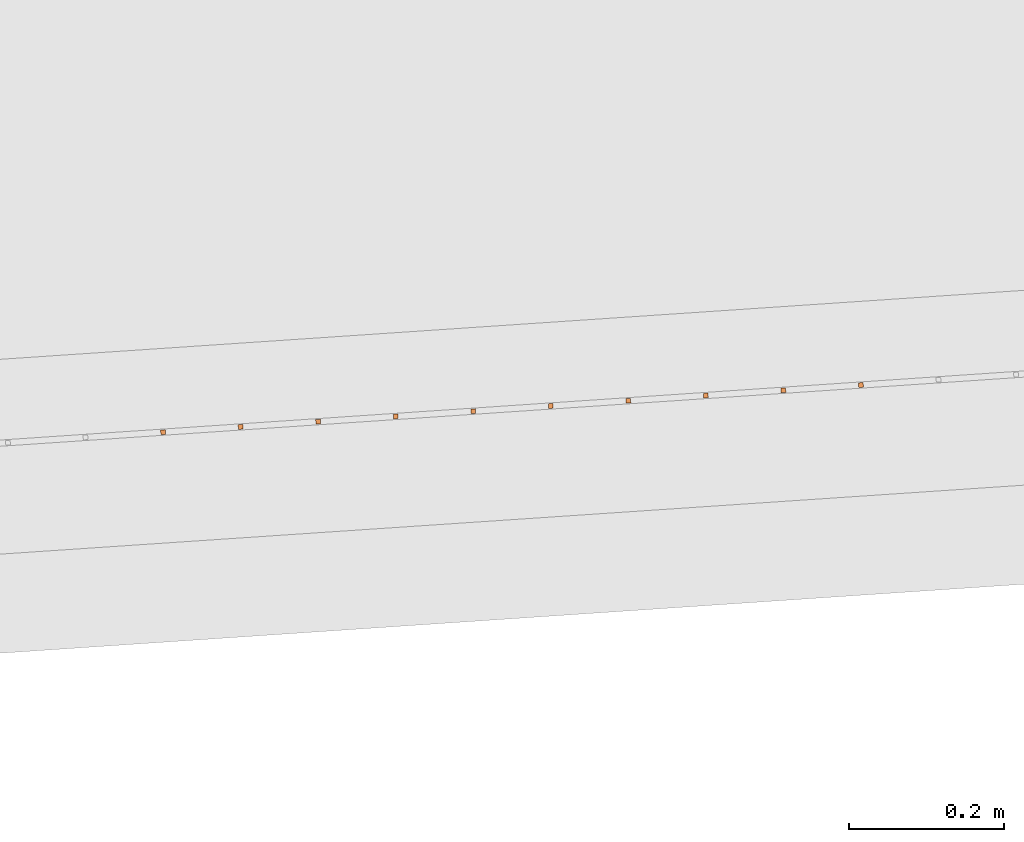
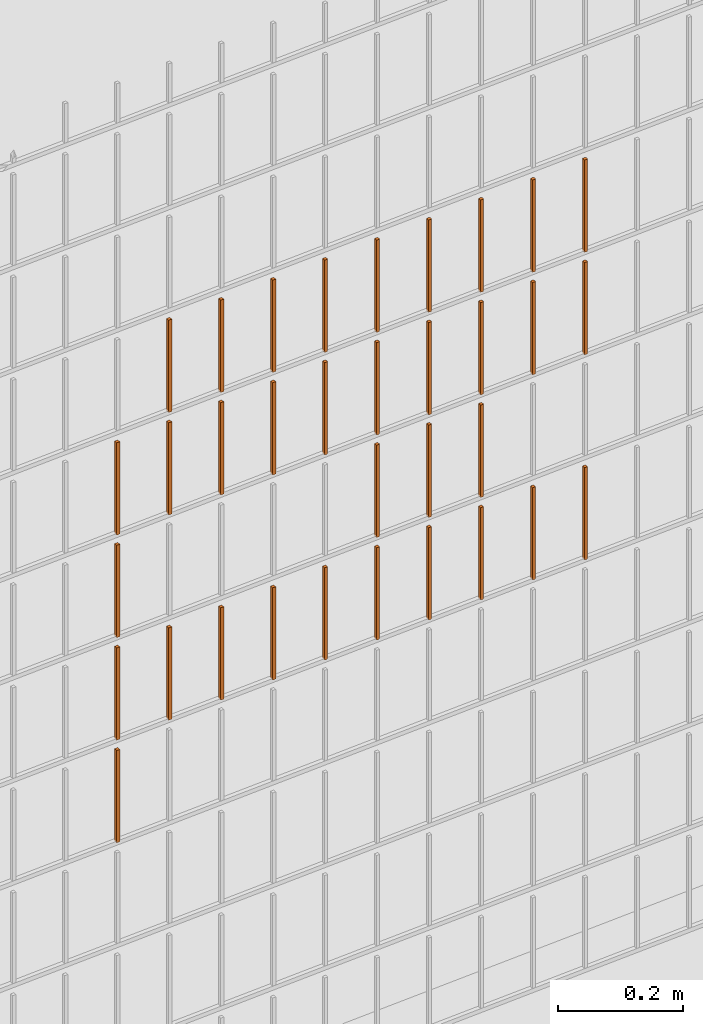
# One storey, part 296 of 1809: 34 proxies, 1 element without a shape of its own.
"""IFC2X3 building model written with IfcOpenShell, lengths in millimetres."""

from ifc_helpers import new_model, entity, si_unit, converted_unit, derived_unit, money_unit, direction, frame, origin_with_axes, place, context, subcontext, project, spatial, faceted_brep, source, transform, mapped, material, type_object, element, aggregate, save


model = new_model("IFC2X3")

# Units and contexts
model_context = context("Model", 3, precision=0.01, world=origin_with_axes(), true_north=direction((0.0, 1.0)))
body_context = subcontext(model_context, "Body", "Model", "MODEL_VIEW")
ifc_project = project(units=[si_unit("LENGTHUNIT", "METRE", prefix="MILLI"), si_unit("AREAUNIT", "SQUARE_METRE"), si_unit("VOLUMEUNIT", "CUBIC_METRE"), converted_unit("PLANEANGLEUNIT", "DEGREE", entity("IfcPlaneAngleMeasure", 0.0174532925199), si_unit("PLANEANGLEUNIT", "RADIAN"), dimensions=[0, 0, 0, 0, 0, 0, 0]), si_unit("SOLIDANGLEUNIT", "STERADIAN"), money_unit("EUR"), converted_unit("TIMEUNIT", "Year", entity("IfcTimeMeasure", 31556926.0), si_unit("TIMEUNIT", "SECOND"), dimensions=[0, 0, 1, 0, 0, 0, 0]), si_unit("MASSUNIT", "GRAM", prefix="KILO"), si_unit("THERMODYNAMICTEMPERATUREUNIT", "DEGREE_CELSIUS"), si_unit("LUMINOUSINTENSITYUNIT", "LUMEN"), si_unit("ENERGYUNIT", "JOULE", prefix="MEGA"), derived_unit("THERMALCONDUCTANCEUNIT", [(si_unit("POWERUNIT", "WATT"), 1), (si_unit("LENGTHUNIT", "METRE"), -1), (si_unit("THERMODYNAMICTEMPERATUREUNIT", "KELVIN"), -1)]), derived_unit("SPECIFICHEATCAPACITYUNIT", [(si_unit("ENERGYUNIT", "JOULE"), 1), (si_unit("MASSUNIT", "GRAM", prefix="KILO"), -1), (si_unit("THERMODYNAMICTEMPERATUREUNIT", "KELVIN"), -1)]), derived_unit("MASSDENSITYUNIT", [(si_unit("MASSUNIT", "GRAM", prefix="KILO"), 1), (si_unit("VOLUMEUNIT", "CUBIC_METRE"), -1)])], contexts=[model_context])

# Site, building, storey
site_placement = place(None, origin_with_axes())
site = spatial("IfcSite", under=ifc_project, at=site_placement, Name="Politse- ja Piirivalveameti ning Päästeameti ühishoone", CompositionType="ELEMENT")
building_placement = place(site_placement, origin_with_axes())
building = spatial("IfcBuilding", under=site, at=building_placement, Name="Politse- ja Piirivalveameti ning Päästeameti ühishoone", CompositionType="ELEMENT")
storey_placement = place(building_placement, origin_with_axes())
storey = spatial("IfcBuildingStorey", under=building, at=storey_placement, Name="Esimene korrus", CompositionType="ELEMENT", Elevation=0.0)

# Proxies
building_element_proxy_type_1 = type_object("IfcBuildingElementProxyType", Name="Railing Type", PredefinedType="NOTDEFINED")
proxy_1_placement = place(storey_placement, frame((89252.001212, -29183.4766571, 203.661247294), z_axis=(0.0, 0.0, 1.0), x_axis=(1.0, 0.0, 0.0)))
proxy_1 = element("IfcBuildingElementProxy", 1, at=proxy_1_placement, inside=storey, type_object=building_element_proxy_type_1, Name="PIIRDEAED")
ifc_material = material(Name="ET-03_Raud")
building_element_proxy_type_2 = type_object("IfcBuildingElementProxyType", Name="IfcBuildingElementProxy", PredefinedType="NOTDEFINED")
shared_shape_1 = source(origin_with_axes(), body_context, "Body", "Brep", [
    faceted_brep([(3.0, 3.0, -0.000752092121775), (-3.0, 3.0, -0.000752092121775), (-3.0, 3.0, 179.99926046), (3.0, 3.0, 179.99926046), (3.0, -3.0, 0.000752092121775), (-3.0, -3.0, 0.000752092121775), (-3.0, -3.0, 180.000764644), (3.0, -3.0, 180.000764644)], [[[0, 1, 2, 3]], [[0, 4, 5, 1]], [[1, 5, 6, 2]], [[3, 2, 6, 7]], [[4, 0, 3, 7]], [[5, 4, 7, 6]]]),
])
proxy_2_placement = place(proxy_1_placement, frame((-45922.0476859, -20399.6357792, 1215.69561571), z_axis=(0.0, 0.0, 1.0), x_axis=(1.0, 0.0, 0.0)))
proxy_2 = element("IfcBuildingElementProxy", 2, at=proxy_2_placement, type_object=building_element_proxy_type_2, material=ifc_material, Name="BALUSTER - 001", context=body_context, shape_type="MappedRepresentation", body=[
    mapped(shared_shape_1, transform((0.0, 0.0, 0.0), x_axis=(-0.0673926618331, 0.997726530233, 0.0), y_axis=(-0.997726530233, -0.0673926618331, 0.0), z_axis=(0.0, 0.0, 1.0))),
])
shared_shape_2 = source(origin_with_axes(), body_context, "Body", "Brep", [
    faceted_brep([(3.0, 3.0, -0.000752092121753), (-3.0, 3.0, -0.000752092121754), (-3.0, 3.0, 179.99926046), (3.0, 3.0, 179.99926046), (3.0, -3.0, 0.000752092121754), (-3.0, -3.0, 0.000752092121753), (-3.0, -3.0, 180.000764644), (3.0, -3.0, 180.000764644)], [[[0, 1, 2, 3]], [[0, 4, 5, 1]], [[1, 5, 6, 2]], [[3, 2, 6, 7]], [[4, 0, 3, 7]], [[5, 4, 7, 6]]]),
])
proxy_3_placement = place(proxy_1_placement, frame((-45323.4117678, -20359.2001821, 1215.84603413), z_axis=(0.0, 0.0, 1.0), x_axis=(1.0, 0.0, 0.0)))
proxy_3 = element("IfcBuildingElementProxy", 3, at=proxy_3_placement, type_object=building_element_proxy_type_2, material=ifc_material, Name="BALUSTER - 001", context=body_context, shape_type="MappedRepresentation", body=[
    mapped(shared_shape_2, transform((0.0, 0.0, 0.0), x_axis=(-0.0673926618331, 0.997726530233, 0.0), y_axis=(-0.997726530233, -0.0673926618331, 0.0), z_axis=(0.0, 0.0, 1.0))),
])
proxy_4_placement = place(proxy_1_placement, frame((-45323.4117678, -20359.2001821, 1415.84603413), z_axis=(0.0, 0.0, 1.0), x_axis=(1.0, 0.0, 0.0)))
proxy_4 = element("IfcBuildingElementProxy", 4, at=proxy_4_placement, type_object=building_element_proxy_type_2, material=ifc_material, Name="BALUSTER - 001", context=body_context, shape_type="MappedRepresentation", body=[
    mapped(shared_shape_2, transform((0.0, 0.0, 0.0), x_axis=(-0.0673926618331, 0.997726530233, 0.0), y_axis=(-0.997726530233, -0.0673926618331, 0.0), z_axis=(0.0, 0.0, 1.0))),
])
shared_shape_3 = source(origin_with_axes(), body_context, "Body", "Brep", [
    faceted_brep([(3.0, 3.0, -0.000752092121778), (-3.0, 3.0, -0.000752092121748), (-3.00000000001, 2.99999999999, 179.99926046), (2.99999999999, 2.99999999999, 179.99926046), (3.0, -3.0, 0.000752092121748), (-3.0, -3.0, 0.000752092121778), (-3.00000000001, -3.00000000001, 180.000764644), (2.99999999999, -3.00000000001, 180.000764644)], [[[0, 1, 2, 3]], [[0, 4, 5, 1]], [[1, 5, 6, 2]], [[3, 2, 6, 7]], [[4, 0, 3, 7]], [[5, 4, 7, 6]]]),
])
proxy_5_placement = place(proxy_1_placement, frame((-45622.7297268, -20379.4179807, 1015.77082492), z_axis=(0.0, 0.0, 1.0), x_axis=(1.0, 0.0, 0.0)))
proxy_5 = element("IfcBuildingElementProxy", 5, at=proxy_5_placement, type_object=building_element_proxy_type_2, material=ifc_material, Name="BALUSTER - 001", context=body_context, shape_type="MappedRepresentation", body=[
    mapped(shared_shape_3, transform((0.0, 0.0, 0.0), x_axis=(-0.0673926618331, 0.997726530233, 0.0), y_axis=(-0.997726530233, -0.0673926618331, 0.0), z_axis=(0.0, 0.0, 1.0))),
])
shared_shape_4 = source(origin_with_axes(), body_context, "Body", "Brep", [
    faceted_brep([(3.0, 3.0, -0.000752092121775), (-3.0, 3.0, -0.000752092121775), (-3.0, 3.0, 179.99926046), (3.0, 3.0, 179.99926046), (3.0, -3.0, 0.000752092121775), (-3.0, -3.0, 0.000752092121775), (-3.0, -3.0, 180.000764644), (3.0, -3.0, 180.000764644)], [[[0, 1, 2, 3]], [[0, 4, 5, 1]], [[1, 5, 6, 2]], [[3, 2, 6, 7]], [[4, 0, 3, 7]], [[5, 4, 7, 6]]]),
])
proxy_6_placement = place(proxy_1_placement, frame((-45922.0476859, -20399.6357792, 1415.69561571), z_axis=(0.0, 0.0, 1.0), x_axis=(1.0, 0.0, 0.0)))
proxy_6 = element("IfcBuildingElementProxy", 6, at=proxy_6_placement, type_object=building_element_proxy_type_2, material=ifc_material, Name="BALUSTER - 001", context=body_context, shape_type="MappedRepresentation", body=[
    mapped(shared_shape_4, transform((0.0, 0.0, 0.0), x_axis=(-0.0673926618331, 0.997726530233, 0.0), y_axis=(-0.997726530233, -0.0673926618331, 0.0), z_axis=(0.0, 0.0, 1.0))),
])
shared_shape_5 = source(origin_with_axes(), body_context, "Body", "Brep", [
    faceted_brep([(3.0, 3.0, -0.000752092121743), (-3.0, 3.0, -0.000752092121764), (-3.0, 3.0, 179.99926046), (3.0, 3.0, 179.99926046), (3.0, -3.0, 0.000752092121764), (-3.0, -3.0, 0.000752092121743), (-3.0, -3.0, 180.000764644), (3.0, -3.0, 180.000764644)], [[[0, 1, 2, 3]], [[0, 4, 5, 1]], [[1, 5, 6, 2]], [[3, 2, 6, 7]], [[4, 0, 3, 7]], [[5, 4, 7, 6]]]),
])
proxy_7_placement = place(proxy_1_placement, frame((-45223.6391147, -20352.4609159, 815.871103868), z_axis=(0.0, 0.0, 1.0), x_axis=(1.0, 0.0, 0.0)))
proxy_7 = element("IfcBuildingElementProxy", 7, at=proxy_7_placement, type_object=building_element_proxy_type_2, material=ifc_material, Name="BALUSTER - 001", context=body_context, shape_type="MappedRepresentation", body=[
    mapped(shared_shape_5, transform((0.0, 0.0, 0.0), x_axis=(-0.0673926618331, 0.997726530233, 0.0), y_axis=(-0.997726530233, -0.0673926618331, 0.0), z_axis=(0.0, 0.0, 1.0))),
])
shared_shape_6 = source(origin_with_axes(), body_context, "Body", "Brep", [
    faceted_brep([(3.0, 3.0, -0.000752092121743), (-3.0, 3.0, -0.000752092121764), (-3.0, 3.0, 179.99926046), (3.0, 3.0, 179.99926046), (3.0, -3.0, 0.000752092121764), (-3.0, -3.0, 0.000752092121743), (-3.0, -3.0, 180.000764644), (3.0, -3.0, 180.000764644)], [[[0, 1, 2, 3]], [[0, 4, 5, 1]], [[1, 5, 6, 2]], [[3, 2, 6, 7]], [[4, 0, 3, 7]], [[5, 4, 7, 6]]]),
])
proxy_8_placement = place(proxy_1_placement, frame((-45822.2750329, -20392.896513, 815.720685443), z_axis=(0.0, 0.0, 1.0), x_axis=(1.0, 0.0, 0.0)))
proxy_8 = element("IfcBuildingElementProxy", 8, at=proxy_8_placement, type_object=building_element_proxy_type_2, material=ifc_material, Name="BALUSTER - 001", context=body_context, shape_type="MappedRepresentation", body=[
    mapped(shared_shape_6, transform((0.0, 0.0, 0.0), x_axis=(-0.0673926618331, 0.997726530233, 0.0), y_axis=(-0.997726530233, -0.0673926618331, 0.0), z_axis=(0.0, 0.0, 1.0))),
])
shared_shape_7 = source(origin_with_axes(), body_context, "Body", "Brep", [
    faceted_brep([(3.0, 3.0, -0.000752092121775), (-3.0, 3.0, -0.000752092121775), (-3.0, 3.0, 179.99926046), (3.0, 3.0, 179.99926046), (3.0, -3.0, 0.000752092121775), (-3.0, -3.0, 0.000752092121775), (-3.0, -3.0, 180.000764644), (3.0, -3.0, 180.000764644)], [[[0, 1, 2, 3]], [[0, 4, 5, 1]], [[1, 5, 6, 2]], [[3, 2, 6, 7]], [[4, 0, 3, 7]], [[5, 4, 7, 6]]]),
])
proxy_9_placement = place(proxy_1_placement, frame((-45722.5023799, -20386.1572469, 1415.74575518), z_axis=(0.0, 0.0, 1.0), x_axis=(1.0, 0.0, 0.0)))
proxy_9 = element("IfcBuildingElementProxy", 9, at=proxy_9_placement, type_object=building_element_proxy_type_2, material=ifc_material, Name="BALUSTER - 001", context=body_context, shape_type="MappedRepresentation", body=[
    mapped(shared_shape_7, transform((0.0, 0.0, 0.0), x_axis=(-0.0673926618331, 0.997726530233, 0.0), y_axis=(-0.997726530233, -0.0673926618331, 0.0), z_axis=(0.0, 0.0, 1.0))),
])
shared_shape_8 = source(origin_with_axes(), body_context, "Body", "Brep", [
    faceted_brep([(3.0, 3.0, -0.000752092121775), (-3.0, 3.0, -0.000752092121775), (-3.0, 3.0, 179.99926046), (3.0, 3.0, 179.99926046), (3.0, -3.0, 0.000752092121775), (-3.0, -3.0, 0.000752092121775), (-3.0, -3.0, 180.000764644), (3.0, -3.0, 180.000764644)], [[[0, 1, 2, 3]], [[0, 4, 5, 1]], [[1, 5, 6, 2]], [[3, 2, 6, 7]], [[4, 0, 3, 7]], [[5, 4, 7, 6]]]),
])
proxy_10_placement = place(proxy_1_placement, frame((-45722.5023799, -20386.1572469, 1215.74575518), z_axis=(0.0, 0.0, 1.0), x_axis=(1.0, 0.0, 0.0)))
proxy_10 = element("IfcBuildingElementProxy", 10, at=proxy_10_placement, type_object=building_element_proxy_type_2, material=ifc_material, Name="BALUSTER - 001", context=body_context, shape_type="MappedRepresentation", body=[
    mapped(shared_shape_8, transform((0.0, 0.0, 0.0), x_axis=(-0.0673926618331, 0.997726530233, 0.0), y_axis=(-0.997726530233, -0.0673926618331, 0.0), z_axis=(0.0, 0.0, 1.0))),
])
shared_shape_9 = source(origin_with_axes(), body_context, "Body", "Brep", [
    faceted_brep([(3.0, 3.0, -0.000752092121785), (-3.0, 3.0, -0.000752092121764), (-3.0, 3.0, 179.99926046), (3.0, 3.0, 179.99926046), (3.0, -3.0, 0.000752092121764), (-3.0, -3.0, 0.000752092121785), (-3.0, -3.0, 180.000764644), (3.0, -3.0, 180.000764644)], [[[0, 1, 2, 3]], [[0, 4, 5, 1]], [[1, 5, 6, 2]], [[3, 2, 6, 7]], [[4, 0, 3, 7]], [[5, 4, 7, 6]]]),
])
proxy_11_placement = place(proxy_1_placement, frame((-45622.7297268, -20379.4179807, 1215.77082492), z_axis=(0.0, 0.0, 1.0), x_axis=(1.0, 0.0, 0.0)))
proxy_11 = element("IfcBuildingElementProxy", 11, at=proxy_11_placement, type_object=building_element_proxy_type_2, material=ifc_material, Name="BALUSTER - 001", context=body_context, shape_type="MappedRepresentation", body=[
    mapped(shared_shape_9, transform((0.0, 0.0, 0.0), x_axis=(-0.0673926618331, 0.997726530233, 0.0), y_axis=(-0.997726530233, -0.0673926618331, 0.0), z_axis=(0.0, 0.0, 1.0))),
])
shared_shape_10 = source(origin_with_axes(), body_context, "Body", "Brep", [
    faceted_brep([(3.0, 3.0, -0.000752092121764), (-3.0, 3.0, -0.000752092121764), (-3.0, 3.0, 179.99926046), (3.0, 3.0, 179.99926046), (3.0, -3.0, 0.000752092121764), (-3.0, -3.0, 0.000752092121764), (-3.0, -3.0, 180.000764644), (3.0, -3.0, 180.000764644)], [[[0, 1, 2, 3]], [[0, 4, 5, 1]], [[1, 5, 6, 2]], [[3, 2, 6, 7]], [[4, 0, 3, 7]], [[5, 4, 7, 6]]]),
])
proxy_12_placement = place(proxy_1_placement, frame((-45622.7297268, -20379.4179807, 815.770824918), z_axis=(0.0, 0.0, 1.0), x_axis=(1.0, 0.0, 0.0)))
proxy_12 = element("IfcBuildingElementProxy", 12, at=proxy_12_placement, type_object=building_element_proxy_type_2, material=ifc_material, Name="BALUSTER - 001", context=body_context, shape_type="MappedRepresentation", body=[
    mapped(shared_shape_10, transform((0.0, 0.0, 0.0), x_axis=(-0.0673926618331, 0.997726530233, 0.0), y_axis=(-0.997726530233, -0.0673926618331, 0.0), z_axis=(0.0, 0.0, 1.0))),
])
proxy_13_placement = place(proxy_1_placement, frame((-45522.9570738, -20372.6787145, 1215.79589466), z_axis=(0.0, 0.0, 1.0), x_axis=(1.0, 0.0, 0.0)))
proxy_13 = element("IfcBuildingElementProxy", 13, at=proxy_13_placement, type_object=building_element_proxy_type_2, material=ifc_material, Name="BALUSTER - 001", context=body_context, shape_type="MappedRepresentation", body=[
    mapped(shared_shape_10, transform((0.0, 0.0, 0.0), x_axis=(-0.0673926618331, 0.997726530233, 0.0), y_axis=(-0.997726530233, -0.0673926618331, 0.0), z_axis=(0.0, 0.0, 1.0))),
])
shared_shape_11 = source(origin_with_axes(), body_context, "Body", "Brep", [
    faceted_brep([(3.0, 3.0, -0.000752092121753), (-3.0, 3.0, -0.000752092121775), (-3.0, 3.0, 179.99926046), (3.0, 3.0, 179.99926046), (3.0, -3.0, 0.000752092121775), (-3.0, -3.0, 0.000752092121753), (-3.0, -3.0, 180.000764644), (3.0, -3.0, 180.000764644)], [[[0, 1, 2, 3]], [[0, 4, 5, 1]], [[1, 5, 6, 2]], [[3, 2, 6, 7]], [[4, 0, 3, 7]], [[5, 4, 7, 6]]]),
])
proxy_14_placement = place(proxy_1_placement, frame((-45423.1844208, -20365.9394483, 1415.82096439), z_axis=(0.0, 0.0, 1.0), x_axis=(1.0, 0.0, 0.0)))
proxy_14 = element("IfcBuildingElementProxy", 14, at=proxy_14_placement, type_object=building_element_proxy_type_2, material=ifc_material, Name="BALUSTER - 001", context=body_context, shape_type="MappedRepresentation", body=[
    mapped(shared_shape_11, transform((0.0, 0.0, 0.0), x_axis=(-0.0673926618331, 0.997726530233, 0.0), y_axis=(-0.997726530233, -0.0673926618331, 0.0), z_axis=(0.0, 0.0, 1.0))),
])
proxy_15_placement = place(proxy_1_placement, frame((-45822.2750329, -20392.896513, 1415.72068544), z_axis=(0.0, 0.0, 1.0), x_axis=(1.0, 0.0, 0.0)))
proxy_15 = element("IfcBuildingElementProxy", 15, at=proxy_15_placement, type_object=building_element_proxy_type_2, material=ifc_material, Name="BALUSTER - 001", context=body_context, shape_type="MappedRepresentation", body=[
    mapped(shared_shape_11, transform((0.0, 0.0, 0.0), x_axis=(-0.0673926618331, 0.997726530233, 0.0), y_axis=(-0.997726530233, -0.0673926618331, 0.0), z_axis=(0.0, 0.0, 1.0))),
])
shared_shape_12 = source(origin_with_axes(), body_context, "Body", "Brep", [
    faceted_brep([(3.0, 3.0, -0.000752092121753), (-3.0, 3.0, -0.000752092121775), (-3.0, 3.0, 179.99926046), (3.0, 3.0, 179.99926046), (3.0, -3.0, 0.000752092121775), (-3.0, -3.0, 0.000752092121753), (-3.0, -3.0, 180.000764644), (3.0, -3.0, 180.000764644)], [[[0, 1, 2, 3]], [[0, 4, 5, 1]], [[1, 5, 6, 2]], [[3, 2, 6, 7]], [[4, 0, 3, 7]], [[5, 4, 7, 6]]]),
])
proxy_16_placement = place(proxy_1_placement, frame((-45922.0476859, -20399.6357792, 815.695615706), z_axis=(0.0, 0.0, 1.0), x_axis=(1.0, 0.0, 0.0)))
proxy_16 = element("IfcBuildingElementProxy", 16, at=proxy_16_placement, type_object=building_element_proxy_type_2, material=ifc_material, Name="BALUSTER - 001", context=body_context, shape_type="MappedRepresentation", body=[
    mapped(shared_shape_12, transform((0.0, 0.0, 0.0), x_axis=(-0.0673926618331, 0.997726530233, 0.0), y_axis=(-0.997726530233, -0.0673926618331, 0.0), z_axis=(0.0, 0.0, 1.0))),
])
proxy_17_placement = place(proxy_1_placement, frame((-45223.6391147, -20352.460916, 1215.87110387), z_axis=(0.0, 0.0, 1.0), x_axis=(1.0, 0.0, 0.0)))
proxy_17 = element("IfcBuildingElementProxy", 17, at=proxy_17_placement, type_object=building_element_proxy_type_2, material=ifc_material, Name="BALUSTER - 001", context=body_context, shape_type="MappedRepresentation", body=[
    mapped(shared_shape_12, transform((0.0, 0.0, 0.0), x_axis=(-0.0673926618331, 0.997726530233, 0.0), y_axis=(-0.997726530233, -0.0673926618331, 0.0), z_axis=(0.0, 0.0, 1.0))),
])
shared_shape_13 = source(origin_with_axes(), body_context, "Body", "Brep", [
    faceted_brep([(3.0, 3.0, -0.000752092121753), (-3.0, 3.0, -0.000752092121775), (-3.0, 3.0, 179.99926046), (3.0, 3.0, 179.99926046), (3.0, -3.0, 0.000752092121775), (-3.0, -3.0, 0.000752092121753), (-3.0, -3.0, 180.000764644), (3.0, -3.0, 180.000764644)], [[[0, 1, 2, 3]], [[0, 4, 5, 1]], [[1, 5, 6, 2]], [[3, 2, 6, 7]], [[4, 0, 3, 7]], [[5, 4, 7, 6]]]),
])
proxy_18_placement = place(proxy_1_placement, frame((-45423.1844208, -20365.9394483, 815.820964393), z_axis=(0.0, 0.0, 1.0), x_axis=(1.0, 0.0, 0.0)))
proxy_18 = element("IfcBuildingElementProxy", 18, at=proxy_18_placement, type_object=building_element_proxy_type_2, material=ifc_material, Name="BALUSTER - 001", context=body_context, shape_type="MappedRepresentation", body=[
    mapped(shared_shape_13, transform((0.0, 0.0, 0.0), x_axis=(-0.0673926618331, 0.997726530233, 0.0), y_axis=(-0.997726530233, -0.0673926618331, 0.0), z_axis=(0.0, 0.0, 1.0))),
])
proxy_19_placement = place(proxy_1_placement, frame((-45423.1844208, -20365.9394483, 1215.82096439), z_axis=(0.0, 0.0, 1.0), x_axis=(1.0, 0.0, 0.0)))
proxy_19 = element("IfcBuildingElementProxy", 19, at=proxy_19_placement, type_object=building_element_proxy_type_2, material=ifc_material, Name="BALUSTER - 001", context=body_context, shape_type="MappedRepresentation", body=[
    mapped(shared_shape_13, transform((0.0, 0.0, 0.0), x_axis=(-0.0673926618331, 0.997726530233, 0.0), y_axis=(-0.997726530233, -0.0673926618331, 0.0), z_axis=(0.0, 0.0, 1.0))),
])
proxy_20_placement = place(proxy_1_placement, frame((-45822.2750329, -20392.896513, 1215.72068544), z_axis=(0.0, 0.0, 1.0), x_axis=(1.0, 0.0, 0.0)))
proxy_20 = element("IfcBuildingElementProxy", 20, at=proxy_20_placement, type_object=building_element_proxy_type_2, material=ifc_material, Name="BALUSTER - 001", context=body_context, shape_type="MappedRepresentation", body=[
    mapped(shared_shape_13, transform((0.0, 0.0, 0.0), x_axis=(-0.0673926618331, 0.997726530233, 0.0), y_axis=(-0.997726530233, -0.0673926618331, 0.0), z_axis=(0.0, 0.0, 1.0))),
])
shared_shape_14 = source(origin_with_axes(), body_context, "Body", "Brep", [
    faceted_brep([(3.0, 3.0, -0.000752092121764), (-3.0, 3.0, -0.000752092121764), (-3.0, 3.0, 179.99926046), (3.0, 3.0, 179.99926046), (3.0, -3.0, 0.000752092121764), (-3.0, -3.0, 0.000752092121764), (-3.0, -3.0, 180.000764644), (3.0, -3.0, 180.000764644)], [[[0, 1, 2, 3]], [[0, 4, 5, 1]], [[1, 5, 6, 2]], [[3, 2, 6, 7]], [[4, 0, 3, 7]], [[5, 4, 7, 6]]]),
])
proxy_21_placement = place(proxy_1_placement, frame((-46121.592992, -20413.1143116, 1215.64547623), z_axis=(0.0, 0.0, 1.0), x_axis=(1.0, 0.0, 0.0)))
proxy_21 = element("IfcBuildingElementProxy", 21, at=proxy_21_placement, type_object=building_element_proxy_type_2, material=ifc_material, Name="BALUSTER - 001", context=body_context, shape_type="MappedRepresentation", body=[
    mapped(shared_shape_14, transform((0.0, 0.0, 0.0), x_axis=(-0.0673926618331, 0.997726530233, 0.0), y_axis=(-0.997726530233, -0.0673926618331, 0.0), z_axis=(0.0, 0.0, 1.0))),
])
shared_shape_15 = source(origin_with_axes(), body_context, "Body", "Brep", [
    faceted_brep([(3.0, 3.0, -0.000752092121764), (-3.0, 3.0, -0.000752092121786), (-3.0, 3.0, 179.99926046), (3.0, 3.0, 179.99926046), (3.0, -3.0, 0.000752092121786), (-3.0, -3.0, 0.000752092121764), (-3.0, -3.0, 180.000764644), (3.0, -3.0, 180.000764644)], [[[0, 1, 2, 3]], [[0, 4, 5, 1]], [[1, 5, 6, 2]], [[3, 2, 6, 7]], [[4, 0, 3, 7]], [[5, 4, 7, 6]]]),
])
proxy_22_placement = place(proxy_1_placement, frame((-45522.9570738, -20372.6787145, 815.795894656), z_axis=(0.0, 0.0, 1.0), x_axis=(1.0, 0.0, 0.0)))
proxy_22 = element("IfcBuildingElementProxy", 22, at=proxy_22_placement, type_object=building_element_proxy_type_2, material=ifc_material, Name="BALUSTER - 001", context=body_context, shape_type="MappedRepresentation", body=[
    mapped(shared_shape_15, transform((0.0, 0.0, 0.0), x_axis=(-0.0673926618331, 0.997726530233, 0.0), y_axis=(-0.997726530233, -0.0673926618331, 0.0), z_axis=(0.0, 0.0, 1.0))),
])
shared_shape_16 = source(origin_with_axes(), body_context, "Body", "Brep", [
    faceted_brep([(3.0, 3.0, -0.000752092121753), (-3.0, 3.0, -0.000752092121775), (-3.0, 3.0, 179.99926046), (3.0, 3.0, 179.99926046), (3.0, -3.0, 0.000752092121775), (-3.0, -3.0, 0.000752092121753), (-3.0, -3.0, 180.000764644), (3.0, -3.0, 180.000764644)], [[[0, 1, 2, 3]], [[0, 4, 5, 1]], [[1, 5, 6, 2]], [[3, 2, 6, 7]], [[4, 0, 3, 7]], [[5, 4, 7, 6]]]),
])
proxy_23_placement = place(proxy_1_placement, frame((-46121.592992, -20413.1143116, 615.645476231), z_axis=(0.0, 0.0, 1.0), x_axis=(1.0, 0.0, 0.0)))
proxy_23 = element("IfcBuildingElementProxy", 23, at=proxy_23_placement, type_object=building_element_proxy_type_2, material=ifc_material, Name="BALUSTER - 001", context=body_context, shape_type="MappedRepresentation", body=[
    mapped(shared_shape_16, transform((0.0, 0.0, 0.0), x_axis=(-0.0673926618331, 0.997726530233, 0.0), y_axis=(-0.997726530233, -0.0673926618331, 0.0), z_axis=(0.0, 0.0, 1.0))),
])
proxy_24_placement = place(proxy_1_placement, frame((-46021.8203389, -20406.3750454, 815.670545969), z_axis=(0.0, 0.0, 1.0), x_axis=(1.0, 0.0, 0.0)))
proxy_24 = element("IfcBuildingElementProxy", 24, at=proxy_24_placement, type_object=building_element_proxy_type_2, material=ifc_material, Name="BALUSTER - 001", context=body_context, shape_type="MappedRepresentation", body=[
    mapped(shared_shape_16, transform((0.0, 0.0, 0.0), x_axis=(-0.0673926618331, 0.997726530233, 0.0), y_axis=(-0.997726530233, -0.0673926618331, 0.0), z_axis=(0.0, 0.0, 1.0))),
])
proxy_25_placement = place(proxy_1_placement, frame((-46121.592992, -20413.1143116, 815.645476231), z_axis=(0.0, 0.0, 1.0), x_axis=(1.0, 0.0, 0.0)))
proxy_25 = element("IfcBuildingElementProxy", 25, at=proxy_25_placement, type_object=building_element_proxy_type_2, material=ifc_material, Name="BALUSTER - 001", context=body_context, shape_type="MappedRepresentation", body=[
    mapped(shared_shape_16, transform((0.0, 0.0, 0.0), x_axis=(-0.0673926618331, 0.997726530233, 0.0), y_axis=(-0.997726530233, -0.0673926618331, 0.0), z_axis=(0.0, 0.0, 1.0))),
])
shared_shape_17 = source(origin_with_axes(), body_context, "Body", "Brep", [
    faceted_brep([(3.0, 3.0, -0.000752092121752), (-3.0, 3.0, -0.000752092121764), (-3.00000000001, 2.99999999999, 179.99926046), (2.99999999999, 2.99999999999, 179.99926046), (3.0, -3.0, 0.000752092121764), (-3.0, -3.0, 0.000752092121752), (-3.00000000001, -3.00000000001, 180.000764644), (2.99999999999, -3.00000000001, 180.000764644)], [[[0, 1, 2, 3]], [[0, 4, 5, 1]], [[1, 5, 6, 2]], [[3, 2, 6, 7]], [[4, 0, 3, 7]], [[5, 4, 7, 6]]]),
])
proxy_26_placement = place(proxy_1_placement, frame((-45423.1844208, -20365.9394483, 1015.82096439), z_axis=(0.0, 0.0, 1.0), x_axis=(1.0, 0.0, 0.0)))
proxy_26 = element("IfcBuildingElementProxy", 26, at=proxy_26_placement, type_object=building_element_proxy_type_2, material=ifc_material, Name="BALUSTER - 001", context=body_context, shape_type="MappedRepresentation", body=[
    mapped(shared_shape_17, transform((0.0, 0.0, 0.0), x_axis=(-0.0673926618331, 0.997726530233, 0.0), y_axis=(-0.997726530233, -0.0673926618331, 0.0), z_axis=(0.0, 0.0, 1.0))),
])
shared_shape_18 = source(origin_with_axes(), body_context, "Body", "Brep", [
    faceted_brep([(3.0, 3.0, -0.000752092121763), (-3.0, 3.0, -0.000752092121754), (-3.00000000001, 2.99999999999, 179.99926046), (2.99999999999, 2.99999999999, 179.99926046), (3.0, -3.0, 0.000752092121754), (-3.0, -3.0, 0.000752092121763), (-3.00000000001, -3.00000000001, 180.000764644), (2.99999999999, -3.00000000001, 180.000764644)], [[[0, 1, 2, 3]], [[0, 4, 5, 1]], [[1, 5, 6, 2]], [[3, 2, 6, 7]], [[4, 0, 3, 7]], [[5, 4, 7, 6]]]),
])
proxy_27_placement = place(proxy_1_placement, frame((-45522.9570738, -20372.6787145, 1015.79589466), z_axis=(0.0, 0.0, 1.0), x_axis=(1.0, 0.0, 0.0)))
proxy_27 = element("IfcBuildingElementProxy", 27, at=proxy_27_placement, type_object=building_element_proxy_type_2, material=ifc_material, Name="BALUSTER - 001", context=body_context, shape_type="MappedRepresentation", body=[
    mapped(shared_shape_18, transform((0.0, 0.0, 0.0), x_axis=(-0.0673926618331, 0.997726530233, 0.0), y_axis=(-0.997726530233, -0.0673926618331, 0.0), z_axis=(0.0, 0.0, 1.0))),
])
shared_shape_19 = source(origin_with_axes(), body_context, "Body", "Brep", [
    faceted_brep([(3.0, 3.0, -0.000752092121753), (-3.0, 3.0, -0.000752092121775), (-3.0, 3.0, 179.99926046), (3.0, 3.0, 179.99926046), (3.0, -3.0, 0.000752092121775), (-3.0, -3.0, 0.000752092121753), (-3.0, -3.0, 180.000764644), (3.0, -3.0, 180.000764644)], [[[0, 1, 2, 3]], [[0, 4, 5, 1]], [[1, 5, 6, 2]], [[3, 2, 6, 7]], [[4, 0, 3, 7]], [[5, 4, 7, 6]]]),
])
proxy_28_placement = place(proxy_1_placement, frame((-45323.4117678, -20359.2001821, 815.84603413), z_axis=(0.0, 0.0, 1.0), x_axis=(1.0, 0.0, 0.0)))
proxy_28 = element("IfcBuildingElementProxy", 28, at=proxy_28_placement, type_object=building_element_proxy_type_2, material=ifc_material, Name="BALUSTER - 001", context=body_context, shape_type="MappedRepresentation", body=[
    mapped(shared_shape_19, transform((0.0, 0.0, 0.0), x_axis=(-0.0673926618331, 0.997726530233, 0.0), y_axis=(-0.997726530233, -0.0673926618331, 0.0), z_axis=(0.0, 0.0, 1.0))),
])
shared_shape_20 = source(origin_with_axes(), body_context, "Body", "Brep", [
    faceted_brep([(3.0, 3.0, -0.000752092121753), (-3.0, 3.0, -0.000752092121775), (-3.0, 3.0, 179.99926046), (3.0, 3.0, 179.99926046), (3.0, -3.0, 0.000752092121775), (-3.0, -3.0, 0.000752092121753), (-3.0, -3.0, 180.000764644), (3.0, -3.0, 180.000764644)], [[[0, 1, 2, 3]], [[0, 4, 5, 1]], [[1, 5, 6, 2]], [[3, 2, 6, 7]], [[4, 0, 3, 7]], [[5, 4, 7, 6]]]),
])
proxy_29_placement = place(proxy_1_placement, frame((-45722.5023799, -20386.1572469, 815.745755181), z_axis=(0.0, 0.0, 1.0), x_axis=(1.0, 0.0, 0.0)))
proxy_29 = element("IfcBuildingElementProxy", 29, at=proxy_29_placement, type_object=building_element_proxy_type_2, material=ifc_material, Name="BALUSTER - 001", context=body_context, shape_type="MappedRepresentation", body=[
    mapped(shared_shape_20, transform((0.0, 0.0, 0.0), x_axis=(-0.0673926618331, 0.997726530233, 0.0), y_axis=(-0.997726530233, -0.0673926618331, 0.0), z_axis=(0.0, 0.0, 1.0))),
])
shared_shape_21 = source(origin_with_axes(), body_context, "Body", "Brep", [
    faceted_brep([(3.0, 3.0, -0.000752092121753), (-3.0, 3.0, -0.000752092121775), (-3.0, 3.0, 179.99926046), (3.0, 3.0, 179.99926046), (3.0, -3.0, 0.000752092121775), (-3.0, -3.0, 0.000752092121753), (-3.0, -3.0, 180.000764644), (3.0, -3.0, 180.000764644)], [[[0, 1, 2, 3]], [[0, 4, 5, 1]], [[1, 5, 6, 2]], [[3, 2, 6, 7]], [[4, 0, 3, 7]], [[5, 4, 7, 6]]]),
])
proxy_30_placement = place(proxy_1_placement, frame((-45223.6391147, -20352.460916, 1415.87110387), z_axis=(0.0, 0.0, 1.0), x_axis=(1.0, 0.0, 0.0)))
proxy_30 = element("IfcBuildingElementProxy", 30, at=proxy_30_placement, type_object=building_element_proxy_type_2, material=ifc_material, Name="BALUSTER - 001", context=body_context, shape_type="MappedRepresentation", body=[
    mapped(shared_shape_21, transform((0.0, 0.0, 0.0), x_axis=(-0.0673926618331, 0.997726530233, 0.0), y_axis=(-0.997726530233, -0.0673926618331, 0.0), z_axis=(0.0, 0.0, 1.0))),
])
shared_shape_22 = source(origin_with_axes(), body_context, "Body", "Brep", [
    faceted_brep([(3.0, 3.0, -0.000752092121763), (-3.0, 3.0, -0.000752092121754), (-3.00000000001, 2.99999999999, 179.99926046), (2.99999999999, 2.99999999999, 179.99926046), (3.0, -3.0, 0.000752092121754), (-3.0, -3.0, 0.000752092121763), (-3.00000000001, -3.00000000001, 180.000764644), (2.99999999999, -3.00000000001, 180.000764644)], [[[0, 1, 2, 3]], [[0, 4, 5, 1]], [[1, 5, 6, 2]], [[3, 2, 6, 7]], [[4, 0, 3, 7]], [[5, 4, 7, 6]]]),
])
proxy_31_placement = place(proxy_1_placement, frame((-46121.592992, -20413.1143116, 1015.64547623), z_axis=(0.0, 0.0, 1.0), x_axis=(1.0, 0.0, 0.0)))
proxy_31 = element("IfcBuildingElementProxy", 31, at=proxy_31_placement, type_object=building_element_proxy_type_2, material=ifc_material, Name="BALUSTER - 001", context=body_context, shape_type="MappedRepresentation", body=[
    mapped(shared_shape_22, transform((0.0, 0.0, 0.0), x_axis=(-0.0673926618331, 0.997726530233, 0.0), y_axis=(-0.997726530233, -0.0673926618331, 0.0), z_axis=(0.0, 0.0, 1.0))),
])
shared_shape_23 = source(origin_with_axes(), body_context, "Body", "Brep", [
    faceted_brep([(3.0, 3.0, -0.000752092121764), (-3.0, 3.0, -0.000752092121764), (-3.0, 3.0, 179.99926046), (3.0, 3.0, 179.99926046), (3.0, -3.0, 0.000752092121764), (-3.0, -3.0, 0.000752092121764), (-3.0, -3.0, 180.000764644), (3.0, -3.0, 180.000764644)], [[[0, 1, 2, 3]], [[0, 4, 5, 1]], [[1, 5, 6, 2]], [[3, 2, 6, 7]], [[4, 0, 3, 7]], [[5, 4, 7, 6]]]),
])
proxy_32_placement = place(proxy_1_placement, frame((-45522.9570738, -20372.6787145, 1415.79589466), z_axis=(0.0, 0.0, 1.0), x_axis=(1.0, 0.0, 0.0)))
proxy_32 = element("IfcBuildingElementProxy", 32, at=proxy_32_placement, type_object=building_element_proxy_type_2, material=ifc_material, Name="BALUSTER - 001", context=body_context, shape_type="MappedRepresentation", body=[
    mapped(shared_shape_23, transform((0.0, 0.0, 0.0), x_axis=(-0.0673926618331, 0.997726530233, 0.0), y_axis=(-0.997726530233, -0.0673926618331, 0.0), z_axis=(0.0, 0.0, 1.0))),
])
shared_shape_24 = source(origin_with_axes(), body_context, "Body", "Brep", [
    faceted_brep([(3.0, 3.0, -0.000752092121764), (-3.0, 3.0, -0.000752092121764), (-3.0, 3.0, 179.99926046), (3.0, 3.0, 179.99926046), (3.0, -3.0, 0.000752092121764), (-3.0, -3.0, 0.000752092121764), (-3.0, -3.0, 180.000764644), (3.0, -3.0, 180.000764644)], [[[0, 1, 2, 3]], [[0, 4, 5, 1]], [[1, 5, 6, 2]], [[3, 2, 6, 7]], [[4, 0, 3, 7]], [[5, 4, 7, 6]]]),
])
proxy_33_placement = place(proxy_1_placement, frame((-46021.8203389, -20406.3750454, 1215.67054597), z_axis=(0.0, 0.0, 1.0), x_axis=(1.0, 0.0, 0.0)))
proxy_33 = element("IfcBuildingElementProxy", 33, at=proxy_33_placement, type_object=building_element_proxy_type_2, material=ifc_material, Name="BALUSTER - 001", context=body_context, shape_type="MappedRepresentation", body=[
    mapped(shared_shape_24, transform((0.0, 0.0, 0.0), x_axis=(-0.0673926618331, 0.997726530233, 0.0), y_axis=(-0.997726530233, -0.0673926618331, 0.0), z_axis=(0.0, 0.0, 1.0))),
])
shared_shape_25 = source(origin_with_axes(), body_context, "Body", "Brep", [
    faceted_brep([(3.0, 3.0, -0.000752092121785), (-3.0, 3.0, -0.000752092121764), (-3.0, 3.0, 179.99926046), (3.0, 3.0, 179.99926046), (3.0, -3.0, 0.000752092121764), (-3.0, -3.0, 0.000752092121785), (-3.0, -3.0, 180.000764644), (3.0, -3.0, 180.000764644)], [[[0, 1, 2, 3]], [[0, 4, 5, 1]], [[1, 5, 6, 2]], [[3, 2, 6, 7]], [[4, 0, 3, 7]], [[5, 4, 7, 6]]]),
])
proxy_34_placement = place(proxy_1_placement, frame((-45622.7297268, -20379.4179807, 1415.77082492), z_axis=(0.0, 0.0, 1.0), x_axis=(1.0, 0.0, 0.0)))
proxy_34 = element("IfcBuildingElementProxy", 34, at=proxy_34_placement, type_object=building_element_proxy_type_2, material=ifc_material, Name="BALUSTER - 001", context=body_context, shape_type="MappedRepresentation", body=[
    mapped(shared_shape_25, transform((0.0, 0.0, 0.0), x_axis=(-0.0673926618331, 0.997726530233, 0.0), y_axis=(-0.997726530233, -0.0673926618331, 0.0), z_axis=(0.0, 0.0, 1.0))),
])
shared_shape_26 = source(origin_with_axes(), body_context, "Body", "Brep", [
    faceted_brep([(3.0, 3.0, -0.000752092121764), (-3.0, 3.0, -0.000752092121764), (-3.0, 3.0, 179.99926046), (3.0, 3.0, 179.99926046), (3.0, -3.0, 0.000752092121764), (-3.0, -3.0, 0.000752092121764), (-3.0, -3.0, 180.000764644), (3.0, -3.0, 180.000764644)], [[[0, 1, 2, 3]], [[0, 4, 5, 1]], [[1, 5, 6, 2]], [[3, 2, 6, 7]], [[4, 0, 3, 7]], [[5, 4, 7, 6]]]),
])
proxy_35_placement = place(proxy_1_placement, frame((-46021.8203389, -20406.3750454, 1415.67054597), z_axis=(0.0, 0.0, 1.0), x_axis=(1.0, 0.0, 0.0)))
proxy_35 = element("IfcBuildingElementProxy", 35, at=proxy_35_placement, type_object=building_element_proxy_type_2, material=ifc_material, Name="BALUSTER - 001", context=body_context, shape_type="MappedRepresentation", body=[
    mapped(shared_shape_26, transform((0.0, 0.0, 0.0), x_axis=(-0.0673926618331, 0.997726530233, 0.0), y_axis=(-0.997726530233, -0.0673926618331, 0.0), z_axis=(0.0, 0.0, 1.0))),
])
aggregate(proxy_1, [proxy_23, proxy_7, proxy_28, proxy_18, proxy_22, proxy_12, proxy_29, proxy_8, proxy_16, proxy_24, proxy_25, proxy_26, proxy_27, proxy_5, proxy_31, proxy_17, proxy_3, proxy_19, proxy_13, proxy_11, proxy_10, proxy_20, proxy_2, proxy_33, proxy_21, proxy_30, proxy_4, proxy_14, proxy_32, proxy_34, proxy_9, proxy_15, proxy_6, proxy_35])

save(model, "model.ifc")
